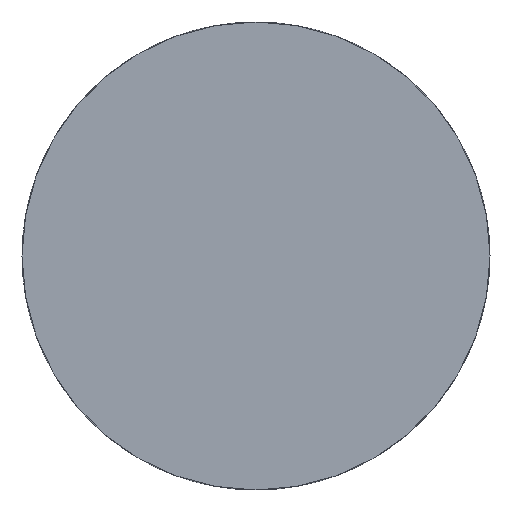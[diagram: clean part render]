
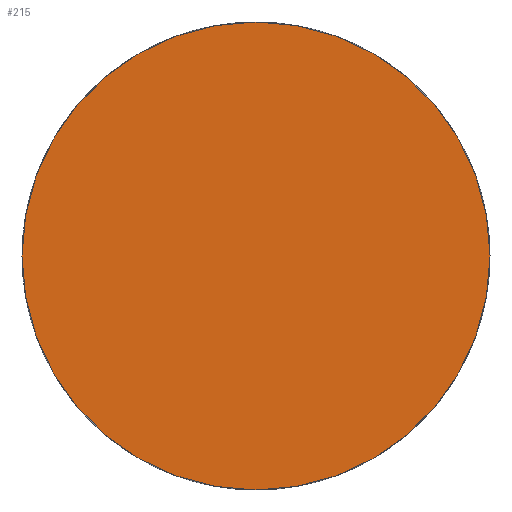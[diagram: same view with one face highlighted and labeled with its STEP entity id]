
A CAD part, left-side view. The second image highlights one B-rep face of the part: STEP entity #215.
In plain terms, the highlighted planar face has unit normal (-1, 0, 0).
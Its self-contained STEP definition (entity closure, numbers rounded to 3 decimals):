
#215 = ADVANCED_FACE( '', ( #477 ), #478, .F. );
#477 = FACE_OUTER_BOUND( '', #782, .T. );
#478 = PLANE( '', #783 );
#782 = EDGE_LOOP( '', ( #1383 ) );
#783 = AXIS2_PLACEMENT_3D( '', #1384, #1385, #1386 );
#1383 = ORIENTED_EDGE( '', *, *, #2076, .F. );
#1384 = CARTESIAN_POINT( '', ( 0., 0., 0. ) );
#1385 = DIRECTION( '', ( 1., 0., 0. ) );
#1386 = DIRECTION( '', ( 0., 1., 0. ) );
#2076 = EDGE_CURVE( '', #2582, #2582, #2583, .T. );
#2582 = VERTEX_POINT( '', #3246 );
#2583 = CIRCLE( '', #3247, 5.35 );
#3246 = CARTESIAN_POINT( '', ( 0., 5.35, 0. ) );
#3247 = AXIS2_PLACEMENT_3D( '', #3875, #3876, #3877 );
#3875 = CARTESIAN_POINT( '', ( 0., 0., 0. ) );
#3876 = DIRECTION( '', ( 1., 0., 0. ) );
#3877 = DIRECTION( '', ( 0., 1., 0. ) );
